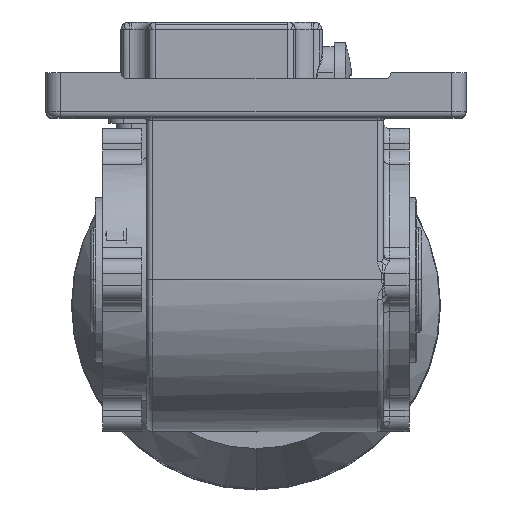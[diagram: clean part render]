
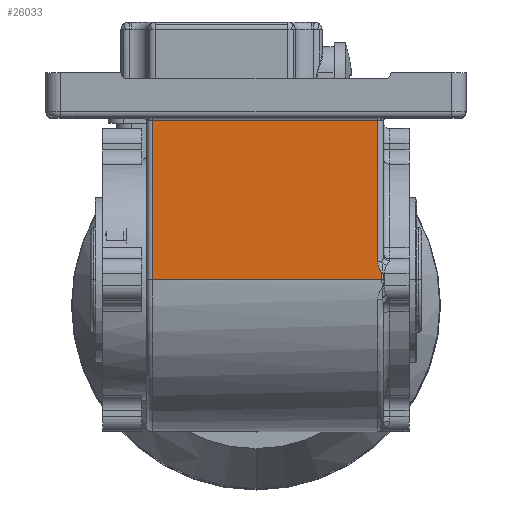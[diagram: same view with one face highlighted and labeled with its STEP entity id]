
A CAD part, top view. The second image highlights one B-rep face of the part: STEP entity #26033.
In plain terms, the highlighted planar face has unit normal (0, 0, 1).
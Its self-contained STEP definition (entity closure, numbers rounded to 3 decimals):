
#1431 = CARTESIAN_POINT ( 'NONE',  ( -34.5, 61., 88. ) ) ;
#1432 = ORIENTED_EDGE ( 'NONE', *, *, #1964, .F. ) ;
#1651 = ORIENTED_EDGE ( 'NONE', *, *, #7029, .T. ) ;
#1775 = DIRECTION ( 'NONE',  ( 0., 1., 0. ) ) ;
#1812 = CARTESIAN_POINT ( 'NONE',  ( 41.915, 10.178, 88. ) ) ;
#1964 = EDGE_CURVE ( 'NONE', #30684, #9539, #31688, .T. ) ;
#1977 = CARTESIAN_POINT ( 'NONE',  ( 41.646, 10.826, 88. ) ) ;
#2323 = CARTESIAN_POINT ( 'NONE',  ( 40.5, 13.936, 88. ) ) ;
#4873 = CARTESIAN_POINT ( 'NONE',  ( 40.89, 12.223, 88. ) ) ;
#5659 = EDGE_CURVE ( 'NONE', #9301, #17656, #21300, .T. ) ;
#5668 = LINE ( 'NONE', #18591, #16540 ) ;
#6849 = EDGE_CURVE ( 'NONE', #33648, #22842, #14909, .T. ) ;
#6868 = VECTOR ( 'NONE', #18718, 1000. ) ;
#7029 = EDGE_CURVE ( 'NONE', #17656, #33648, #9610, .T. ) ;
#8275 = VECTOR ( 'NONE', #15912, 1000. ) ;
#8357 = CARTESIAN_POINT ( 'NONE',  ( 42.5, 8., 88. ) ) ;
#9301 = VERTEX_POINT ( 'NONE', #23374 ) ;
#9539 = VERTEX_POINT ( 'NONE', #27039 ) ;
#9607 = DIRECTION ( 'NONE',  ( 0., -1., 0. ) ) ;
#9610 = LINE ( 'NONE', #12640, #32205 ) ;
#9971 = LINE ( 'NONE', #18289, #13972 ) ;
#10722 = DIRECTION ( 'NONE',  ( 0., 1., 0. ) ) ;
#11574 = AXIS2_PLACEMENT_3D ( 'NONE', #28410, #28763, #10722 ) ;
#12274 = CARTESIAN_POINT ( 'NONE',  ( 40.5, 13.936, 88. ) ) ;
#12340 = CARTESIAN_POINT ( 'NONE',  ( 41.839, 10.429, 88. ) ) ;
#12640 = CARTESIAN_POINT ( 'NONE',  ( 40.5, 61., 88. ) ) ;
#13972 = VECTOR ( 'NONE', #28702, 1000. ) ;
#14909 = LINE ( 'NONE', #28885, #8275 ) ;
#15201 = CARTESIAN_POINT ( 'NONE',  ( 40.515, 13.58, 88. ) ) ;
#15882 = ORIENTED_EDGE ( 'NONE', *, *, #18857, .T. ) ;
#15912 = DIRECTION ( 'NONE',  ( -1., 0., 0. ) ) ;
#16117 = CARTESIAN_POINT ( 'NONE',  ( 40.5, 61., 88. ) ) ;
#16540 = VECTOR ( 'NONE', #9607, 1000. ) ;
#17656 = VERTEX_POINT ( 'NONE', #12274 ) ;
#17782 = CARTESIAN_POINT ( 'NONE',  ( 41.928, 10., 88. ) ) ;
#18289 = CARTESIAN_POINT ( 'NONE',  ( 41.928, 61., 88. ) ) ;
#18352 = PLANE ( 'NONE',  #11574 ) ;
#18591 = CARTESIAN_POINT ( 'NONE',  ( -34.5, 61., 88. ) ) ;
#18694 = ORIENTED_EDGE ( 'NONE', *, *, #22592, .T. ) ;
#18718 = DIRECTION ( 'NONE',  ( -1., 0., 0. ) ) ;
#18857 = EDGE_CURVE ( 'NONE', #22842, #9539, #5668, .T. ) ;
#20017 = CARTESIAN_POINT ( 'NONE',  ( 41.732, 10.671, 88. ) ) ;
#20799 = CARTESIAN_POINT ( 'NONE',  ( 41.928, 8., 88. ) ) ;
#21300 = B_SPLINE_CURVE_WITH_KNOTS ( 'NONE', 3,
 ( #17782, #28026, #1812, #25311, #12340, #20017, #1977, #25487, #28199, #4873, #30067, #24980, #22577, #15201, #22761, #2323 ),
 .UNSPECIFIED., .F., .F.,
 ( 4, 2, 2, 2, 2, 2, 2, 4 ),
 ( 0., 0., 0.001, 0.001, 0.002, 0.003, 0.004, 0.004 ),
 .UNSPECIFIED. ) ;
#22577 = CARTESIAN_POINT ( 'NONE',  ( 40.568, 13.231, 88. ) ) ;
#22592 = EDGE_CURVE ( 'NONE', #30684, #9301, #9971, .T. ) ;
#22761 = CARTESIAN_POINT ( 'NONE',  ( 40.5, 13.758, 88. ) ) ;
#22842 = VERTEX_POINT ( 'NONE', #1431 ) ;
#23374 = CARTESIAN_POINT ( 'NONE',  ( 41.928, 10., 88. ) ) ;
#24980 = CARTESIAN_POINT ( 'NONE',  ( 40.607, 13.059, 88. ) ) ;
#25311 = CARTESIAN_POINT ( 'NONE',  ( 41.87, 10.347, 88. ) ) ;
#25487 = CARTESIAN_POINT ( 'NONE',  ( 41.384, 11.287, 88. ) ) ;
#25703 = FACE_OUTER_BOUND ( 'NONE', #32875, .T. ) ;
#26033 = ADVANCED_FACE ( 'NONE', ( #25703 ), #18352, .F. ) ;
#27039 = CARTESIAN_POINT ( 'NONE',  ( -34.5, 8., 88. ) ) ;
#28026 = CARTESIAN_POINT ( 'NONE',  ( 41.928, 10.089, 88. ) ) ;
#28199 = CARTESIAN_POINT ( 'NONE',  ( 41.204, 11.591, 88. ) ) ;
#28410 = CARTESIAN_POINT ( 'NONE',  ( 42.5, 61., 88. ) ) ;
#28702 = DIRECTION ( 'NONE',  ( 0., 1., 0. ) ) ;
#28763 = DIRECTION ( 'NONE',  ( 0., 0., -1. ) ) ;
#28885 = CARTESIAN_POINT ( 'NONE',  ( 42.5, 61., 88. ) ) ;
#30067 = CARTESIAN_POINT ( 'NONE',  ( 40.753, 12.552, 88. ) ) ;
#30684 = VERTEX_POINT ( 'NONE', #20799 ) ;
#31465 = ORIENTED_EDGE ( 'NONE', *, *, #5659, .T. ) ;
#31688 = LINE ( 'NONE', #8357, #6868 ) ;
#32146 = ORIENTED_EDGE ( 'NONE', *, *, #6849, .T. ) ;
#32205 = VECTOR ( 'NONE', #1775, 1000. ) ;
#32875 = EDGE_LOOP ( 'NONE', ( #31465, #1651, #32146, #15882, #1432, #18694 ) ) ;
#33648 = VERTEX_POINT ( 'NONE', #16117 ) ;
